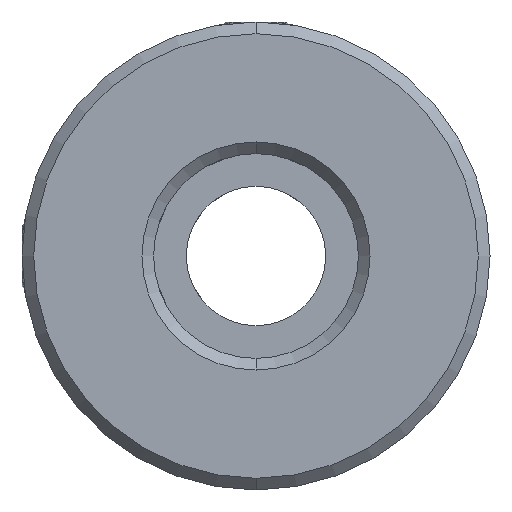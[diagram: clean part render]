
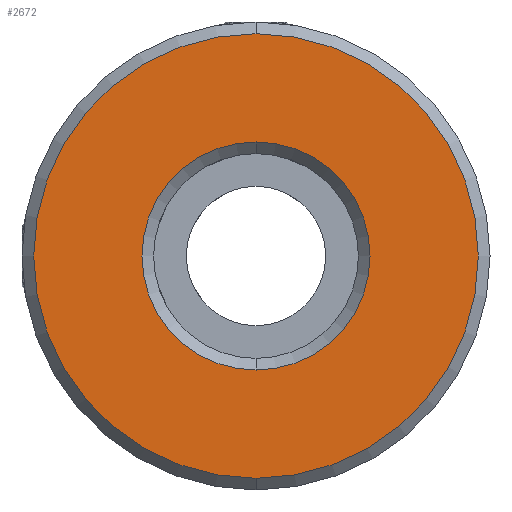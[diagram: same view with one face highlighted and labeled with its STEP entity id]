
A CAD part, front view. The second image highlights one B-rep face of the part: STEP entity #2672.
In plain terms, the highlighted planar face has unit normal (0, -1, 0).
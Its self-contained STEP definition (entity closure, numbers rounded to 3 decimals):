
#223 = CARTESIAN_POINT ( 'NONE',  ( -10.188, -0.277, 0.046 ) ) ;
#341 = CIRCLE ( 'NONE', #2658, 15.2 ) ;
#427 = DIRECTION ( 'NONE',  ( 0., 0., 1. ) ) ;
#501 = CARTESIAN_POINT ( 'NONE',  ( -10.188, -0.277, 0.046 ) ) ;
#662 = DIRECTION ( 'NONE',  ( 0., -1., 0. ) ) ;
#676 = EDGE_CURVE ( 'NONE', #2042, #3340, #341, .T. ) ;
#1047 = EDGE_LOOP ( 'NONE', ( #3160, #3034 ) ) ;
#1048 = CARTESIAN_POINT ( 'NONE',  ( -10.188, -0.277, -15.154 ) ) ;
#1089 = EDGE_LOOP ( 'NONE', ( #1570, #2819 ) ) ;
#1570 = ORIENTED_EDGE ( 'NONE', *, *, #2100, .T. ) ;
#1646 = DIRECTION ( 'NONE',  ( 0., 0., 1. ) ) ;
#1700 = CIRCLE ( 'NONE', #3042, 7.8 ) ;
#1728 = CARTESIAN_POINT ( 'NONE',  ( -10.188, -0.277, 0.046 ) ) ;
#1956 = EDGE_CURVE ( 'NONE', #3305, #2755, #2302, .T. ) ;
#2003 = CARTESIAN_POINT ( 'NONE',  ( -10.188, -0.277, 0.046 ) ) ;
#2011 = DIRECTION ( 'NONE',  ( 0., -1., 0. ) ) ;
#2042 = VERTEX_POINT ( 'NONE', #1048 ) ;
#2100 = EDGE_CURVE ( 'NONE', #2755, #3305, #1700, .T. ) ;
#2204 = CARTESIAN_POINT ( 'NONE',  ( -10.188, -0.277, 0.046 ) ) ;
#2241 = DIRECTION ( 'NONE',  ( 0., 1., 0. ) ) ;
#2245 = CARTESIAN_POINT ( 'NONE',  ( -10.188, -0.277, 15.246 ) ) ;
#2275 = DIRECTION ( 'NONE',  ( 0., 0., 1. ) ) ;
#2302 = CIRCLE ( 'NONE', #3150, 7.8 ) ;
#2317 = EDGE_CURVE ( 'NONE', #3340, #2042, #3118, .T. ) ;
#2453 = AXIS2_PLACEMENT_3D ( 'NONE', #2204, #662, #427 ) ;
#2555 = DIRECTION ( 'NONE',  ( 0., 1., 0. ) ) ;
#2588 = DIRECTION ( 'NONE',  ( 0., 1., 0. ) ) ;
#2658 = AXIS2_PLACEMENT_3D ( 'NONE', #1728, #2011, #3675 ) ;
#2672 = ADVANCED_FACE ( 'NONE', ( #2843, #3454 ), #3421, .F. ) ;
#2755 = VERTEX_POINT ( 'NONE', #2990 ) ;
#2819 = ORIENTED_EDGE ( 'NONE', *, *, #1956, .T. ) ;
#2843 = FACE_OUTER_BOUND ( 'NONE', #1047, .T. ) ;
#2990 = CARTESIAN_POINT ( 'NONE',  ( -10.188, -0.277, -7.754 ) ) ;
#3034 = ORIENTED_EDGE ( 'NONE', *, *, #676, .T. ) ;
#3042 = AXIS2_PLACEMENT_3D ( 'NONE', #501, #2555, #1646 ) ;
#3074 = AXIS2_PLACEMENT_3D ( 'NONE', #223, #2241, #2275 ) ;
#3093 = CARTESIAN_POINT ( 'NONE',  ( -10.188, -0.277, 7.846 ) ) ;
#3118 = CIRCLE ( 'NONE', #2453, 15.2 ) ;
#3150 = AXIS2_PLACEMENT_3D ( 'NONE', #2003, #2588, #3155 ) ;
#3155 = DIRECTION ( 'NONE',  ( 0., 0., 1. ) ) ;
#3160 = ORIENTED_EDGE ( 'NONE', *, *, #2317, .T. ) ;
#3305 = VERTEX_POINT ( 'NONE', #3093 ) ;
#3340 = VERTEX_POINT ( 'NONE', #2245 ) ;
#3421 = PLANE ( 'NONE',  #3074 ) ;
#3454 = FACE_BOUND ( 'NONE', #1089, .T. ) ;
#3675 = DIRECTION ( 'NONE',  ( 0., 0., 1. ) ) ;
